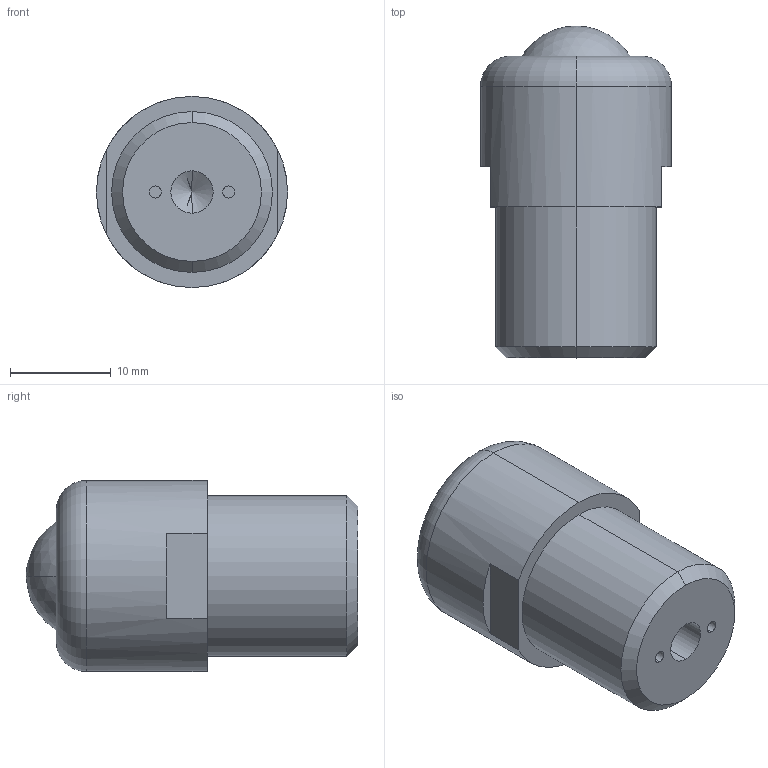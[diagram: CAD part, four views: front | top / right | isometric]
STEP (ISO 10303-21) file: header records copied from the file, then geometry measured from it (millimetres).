
FILE_DESCRIPTION (( 'STEP AP203' ), '1' );
FILE_NAME ('PVPR16BJ-SJ.STEP', '2015-12-15T05:14:06', ( '' ), ( '' ), 'SwSTEP 2.0', 'SolidWorks 2013', '' );
FILE_SCHEMA (( 'CONFIG_CONTROL_DESIGN' ));
Length unit declared in the file: millimetre
Products named in the file (1): PVPR16BJ-SJ
Bounding box: 19 x 33 x 19 mm (x, y, z)
Volume: 7100.9 mm3; surface area: 2271 mm2
Topology: 1 solids, 1 shells, 27 faces, 58 edges, 36 vertices
Faces by surface type: cylinder 10, plane 9, cone 4, sphere 2, torus 2
Entity records: 809 total; most frequent: DIRECTION 146, CARTESIAN_POINT 120, ORIENTED_EDGE 112, AXIS2_PLACEMENT_3D 62, EDGE_CURVE 56, VERTEX_POINT 36, CIRCLE 34, EDGE_LOOP 32
